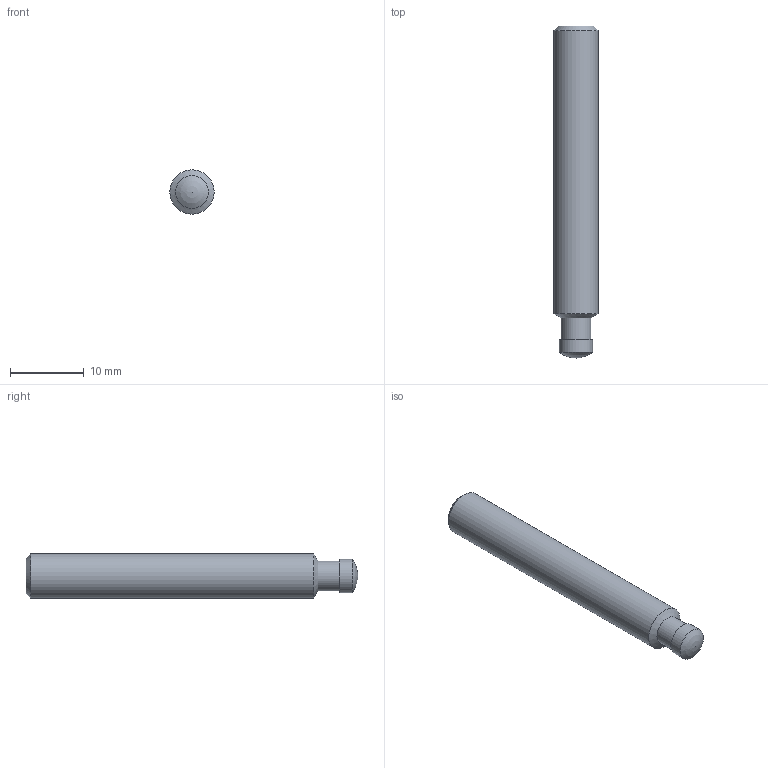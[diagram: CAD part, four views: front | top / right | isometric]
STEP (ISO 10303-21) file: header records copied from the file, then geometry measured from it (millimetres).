
FILE_DESCRIPTION( ( 'STEP AP203' ), '1' );
FILE_NAME( 'C:/Temp/Ganter_Step_05_03_2020/data/3_2/din6332/din6332/Grub screw DIN 6332-M6-45-SKN.stp', '2020-03-13T05:16:27', ( 'License CC BY-ND 4.0' ), ( 'CADENAS' ), ' ', 'PARTsolutions', ' ' );
FILE_SCHEMA( ( 'CONFIG_CONTROL_DESIGN' ) );
Length unit declared in the file: millimetre
Products named in the file (1): _Grub screw DIN 6332-M6-45-SKN
Bounding box: 6 x 45 x 6 mm (x, y, z)
Volume: 1166 mm3; surface area: 877.5 mm2
Topology: 1 solids, 1 shells, 15 faces, 33 edges, 21 vertices
Faces by surface type: plane 9, cylinder 3, cone 2, sphere 1
Full cylindrical faces by diameter (mm): 4 x1, 4.5 x1, 6 x1
Entity records: 410 total; most frequent: DIRECTION 64, CARTESIAN_POINT 61, ORIENTED_EDGE 50, EDGE_CURVE 25, AXIS2_PLACEMENT_3D 23, EDGE_LOOP 22, VERTEX_POINT 20, FACE_OUTER_BOUND 18
